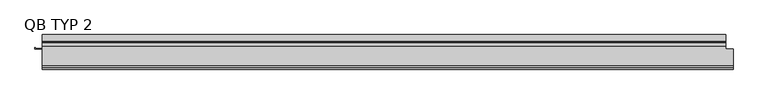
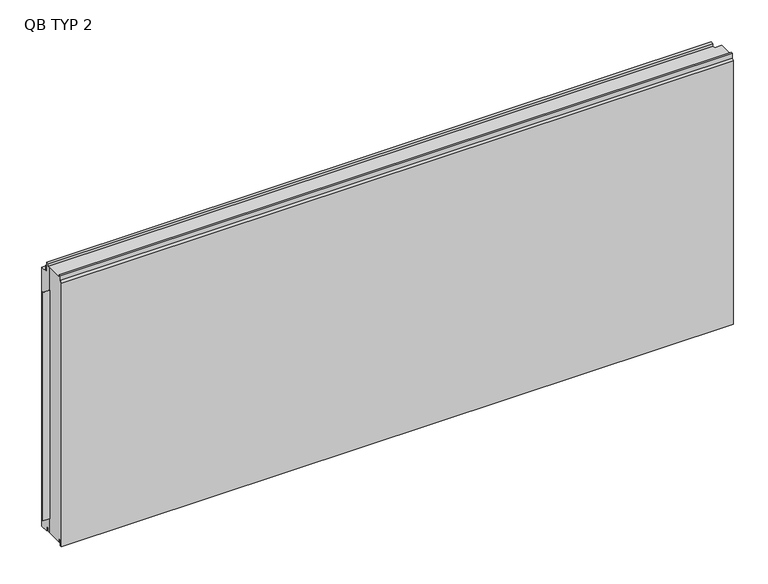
"""IFC4 building model written with IfcOpenShell, lengths in millimetres: plate geometry, TR_C_H_QBISS_Panel : QB TYP 2."""

from ifc_helpers import new_model, si_unit, frame, origin, place, context, project, spatial, polyline, outline, extrude, faceted_brep, source, transform, mapped, element, save


def qb_typ_2_6b1fd04e(model_context):
    return source(origin(), model_context, "Body", "SolidModel", [
        extrude(outline(polyline([(-1211.0, -49.0), (-1211.0, -44.0), (-1210.2, -44.0), (-1210.2, -48.2), (-1185.8, -48.2), (-1185.8, -49.0), (-1211.0, -49.0)])), frame((0.0, 0.0, 54.0), z_axis=(0.0, 0.0, 1.0), x_axis=(1.0, 0.0, 0.0)), (0.0, 0.0, 1.0), 862.0),
        faceted_brep([(1210.9, -108.0, 1000.0), (1210.9, -108.0, 1010.0), (1210.9, -114.0, 1010.0), (1210.9, -114.0, 992.0), (1210.9, -120.0, 986.0), (1210.9, -120.0, -8.0), (1210.9, -114.0, -8.0), (1210.9, -114.0, 13.0), (1210.9, -108.0, 13.0), (1210.9, -108.0, 0.0), (1210.9, -49.0, 0.0), (1210.9, -49.0, 1000.0), (-1186.0, -108.0, 0.0), (-1186.0, -108.0, 13.0), (-1186.0, -114.0, 13.0), (-1186.0, -114.0, -8.0), (-1186.0, -120.0, -8.0), (-1186.0, -120.0, 986.0), (-1186.0, -114.0, 992.0), (-1186.0, -114.0, 1010.0), (-1186.0, -108.0, 1010.0), (-1186.0, -108.0, 1000.0), (-1186.0, -49.0, 1000.0), (-1186.0, -49.0, 0.0), (-1185.8, -49.0, 0.0), (-1185.8, -39.0, 0.0), (1185.8, -39.0, 0.0), (1185.8, -49.0, 0.0), (-1185.8, -39.0, 13.0), (1185.8, -39.0, 13.0), (-1185.8, -29.0, 13.0), (1185.8, -29.0, 13.0), (-1185.8, -29.0, -4.0), (1185.8, -29.0, -4.0), (-1185.8, 0.0, -4.0), (1185.8, 0.0, -4.0), (-1185.8, 0.0, 973.0), (1185.8, 0.0, 973.0), (-1185.8, -29.0, 973.0), (1185.8, -29.0, 973.0), (-1185.8, -29.0, 1010.0), (1185.8, -29.0, 1010.0), (-1185.8, -39.0, 1010.0), (1185.8, -39.0, 1010.0), (-1185.8, -39.0, 1000.0), (1185.8, -39.0, 1000.0), (1185.8, -49.0, 1000.0), (-1185.8, -49.0, 1000.0)], [[[0, 1, 2, 3, 4, 5, 6, 7, 8, 9, 10, 11]], [[12, 13, 14, 15, 16, 17, 18, 19, 20, 21, 22, 23]], [[9, 12, 23, 24, 25, 26, 27, 10]], [[26, 25, 28, 29]], [[29, 28, 30, 31]], [[31, 30, 32, 33]], [[33, 32, 34, 35]], [[35, 34, 36, 37]], [[37, 36, 38, 39]], [[39, 38, 40, 41]], [[41, 40, 42, 43]], [[43, 42, 44, 45]], [[21, 0, 11, 46, 45, 44, 47, 22]], [[1, 0, 21, 20]], [[2, 1, 20, 19]], [[3, 2, 19, 18]], [[4, 3, 18, 17]], [[5, 4, 17, 16]], [[6, 5, 16, 15]], [[7, 6, 15, 14]], [[8, 7, 14, 13]], [[9, 8, 13, 12]], [[47, 24, 23, 22]], [[24, 47, 44, 42, 40, 38, 36, 34, 32, 30, 28, 25]], [[46, 27, 26, 29, 31, 33, 35, 37, 39, 41, 43, 45]], [[27, 46, 11, 10]]]),
        extrude(outline(polyline([(-24.0, 994.5), (-24.0, 974.5), (-25.4998317, 974.5), (-25.4998317, 981.3023028), (-27.9998293, 981.3023028), (-27.9998293, 980.5023028), (-28.7998428, 980.5023028), (-28.7998428, 988.5023593), (-27.9998293, 988.5023593), (-27.9998293, 987.7023593), (-25.4998317, 987.7023593), (-25.4998317, 994.5), (-24.0, 994.5)])), frame((-1185.8, 0.0, 0.0), z_axis=(1.0, 0.0, 0.0), x_axis=(0.0, 1.0, 0.0)), (0.0, 0.0, 1.0), 2371.6),
    ])


if __name__ == "__main__":
    model = new_model("IFC4")
    model_context = context("Model", 3, world=origin())
    ifc_project = project(units=[si_unit("LENGTHUNIT", "METRE", prefix="MILLI")], contexts=[model_context])
    site = spatial("IfcSite", under=ifc_project)
    building = spatial("IfcBuilding", under=site)
    placement = place(None, origin())
    qb_typ_2_shape = qb_typ_2_6b1fd04e(model_context)
    element("IfcPlate", 1, ObjectType="TR_C_H_QBISS_Panel : QB TYP 2", at=placement, inside=building, context=model_context, shape_type="MappedRepresentation", body=[
        mapped(qb_typ_2_shape, transform((0.0, 0.0, 0.0), x_axis=(1.0, 0.0, 0.0), y_axis=(0.0, 1.0, 0.0), z_axis=(0.0, 0.0, 1.0))),
    ])
    save(model, "model.ifc")
